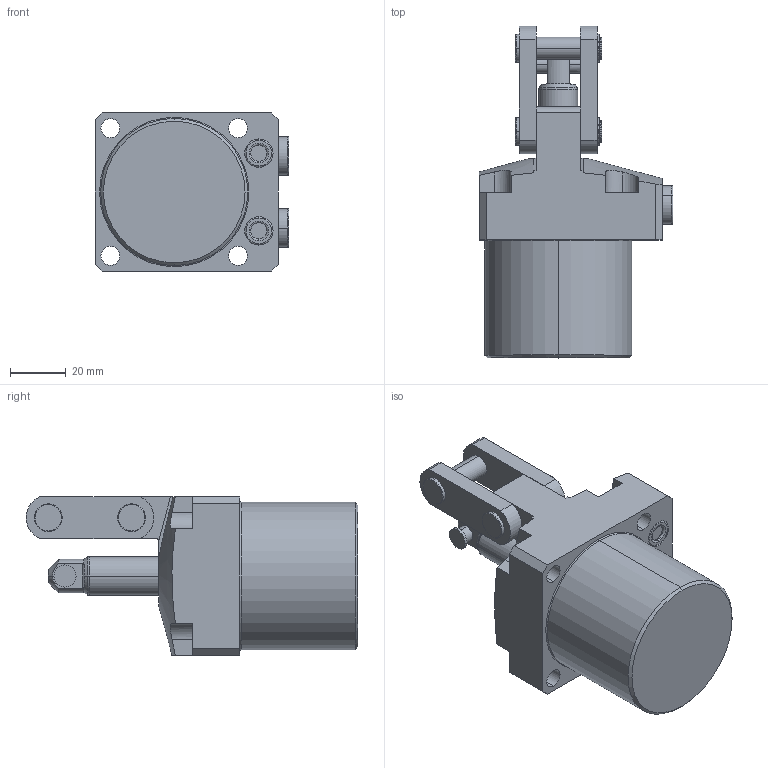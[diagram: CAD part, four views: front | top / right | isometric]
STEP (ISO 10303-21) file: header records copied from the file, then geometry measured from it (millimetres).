
FILE_DESCRIPTION(/* description */ (''),/* implementation_level */ '2;1');
FILE_NAME(/* name */ 'TPC06-L.stp',/* time_stamp */ '2025-01-05T10:30:43+08:00',/* author */ (''),/* organization */ (''),/* preprocessor_version */ 'ST-DEVELOPER v16.7',/* originating_system */ 'SIEMENS PLM Software NX 12.0',/* authorisation */ '');
FILE_SCHEMA (('AUTOMOTIVE_DESIGN { 1 0 10303 214 3 1 1 1 }'));
Length unit declared in the file: millimetre
Products named in the file (5): TPC06-L-01; TPC06-L-02; TPC06-L-03; TPC06-L-04; TPC06-L_stp
Assembly tree (5 placements, depth 2):
  TPC06-L_stp
    TPC06-L-04  x2
    TPC06-L-03
    TPC06-L-02
    TPC06-L-01
Bounding box: 69.8 x 119.5 x 57 mm (x, y, z)
Volume: 200558.6 mm3; surface area: 33717.3 mm2
Topology: 5 solids, 7 shells, 280 faces, 661 edges, 420 vertices
Faces by surface type: cylinder 116, plane 111, torus 34, cone 19
Entity records: 7800 total; most frequent: CARTESIAN_POINT 1458, DIRECTION 1401, ORIENTED_EDGE 1230, EDGE_CURVE 615, AXIS2_PLACEMENT_3D 558, VERTEX_POINT 392, EDGE_LOOP 301, CIRCLE 294
